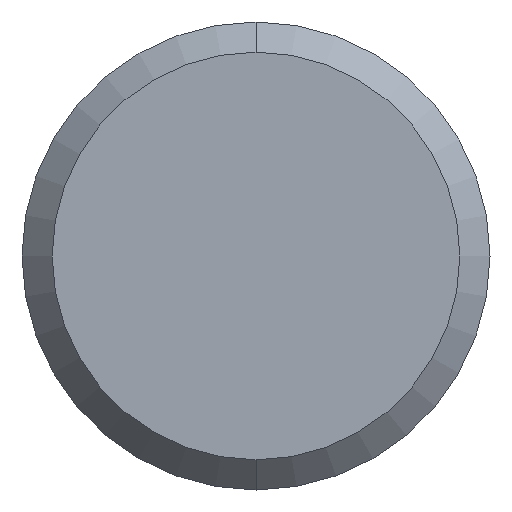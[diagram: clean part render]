
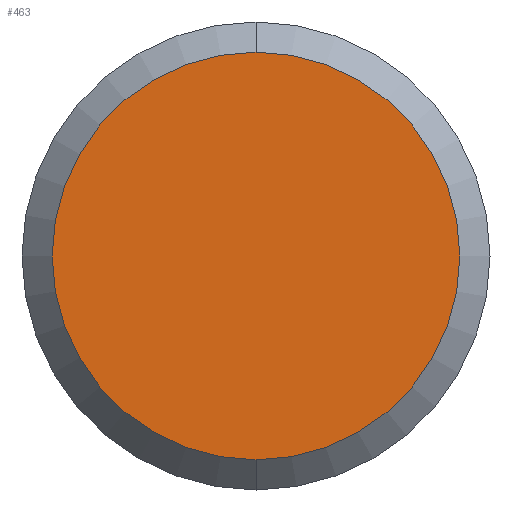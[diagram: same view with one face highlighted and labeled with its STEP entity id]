
A CAD part, left-side view. The second image highlights one B-rep face of the part: STEP entity #463.
In plain terms, the highlighted planar face has unit normal (-1, 0, 0).
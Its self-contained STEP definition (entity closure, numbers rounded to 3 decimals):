
#54 = VERTEX_POINT ( 'NONE', #87 ) ;
#66 = CARTESIAN_POINT ( 'NONE',  ( 0., 0., 0. ) ) ;
#87 = CARTESIAN_POINT ( 'NONE',  ( 0., 0., -13.5 ) ) ;
#109 = DIRECTION ( 'NONE',  ( 0., 0., -1. ) ) ;
#141 = VERTEX_POINT ( 'NONE', #448 ) ;
#155 = PLANE ( 'NONE',  #324 ) ;
#198 = DIRECTION ( 'NONE',  ( 1., 0., 0. ) ) ;
#219 = ORIENTED_EDGE ( 'NONE', *, *, #440, .T. ) ;
#227 = AXIS2_PLACEMENT_3D ( 'NONE', #66, #389, #109 ) ;
#258 = CARTESIAN_POINT ( 'NONE',  ( 0., 0., 0. ) ) ;
#293 = AXIS2_PLACEMENT_3D ( 'NONE', #258, #576, #299 ) ;
#299 = DIRECTION ( 'NONE',  ( 0., 0., -1. ) ) ;
#324 = AXIS2_PLACEMENT_3D ( 'NONE', #570, #198, #527 ) ;
#382 = ORIENTED_EDGE ( 'NONE', *, *, #502, .T. ) ;
#389 = DIRECTION ( 'NONE',  ( -1., 0., 0. ) ) ;
#401 = CIRCLE ( 'NONE', #227, 13.5 ) ;
#440 = EDGE_CURVE ( 'NONE', #141, #54, #401, .T. ) ;
#448 = CARTESIAN_POINT ( 'NONE',  ( 0., 0., 13.5 ) ) ;
#463 = ADVANCED_FACE ( 'NONE', ( #506 ), #155, .F. ) ;
#492 = CIRCLE ( 'NONE', #293, 13.5 ) ;
#502 = EDGE_CURVE ( 'NONE', #54, #141, #492, .T. ) ;
#506 = FACE_OUTER_BOUND ( 'NONE', #519, .T. ) ;
#519 = EDGE_LOOP ( 'NONE', ( #382, #219 ) ) ;
#527 = DIRECTION ( 'NONE',  ( 0., 0., -1. ) ) ;
#570 = CARTESIAN_POINT ( 'NONE',  ( 0., 0., 0. ) ) ;
#576 = DIRECTION ( 'NONE',  ( -1., 0., 0. ) ) ;
